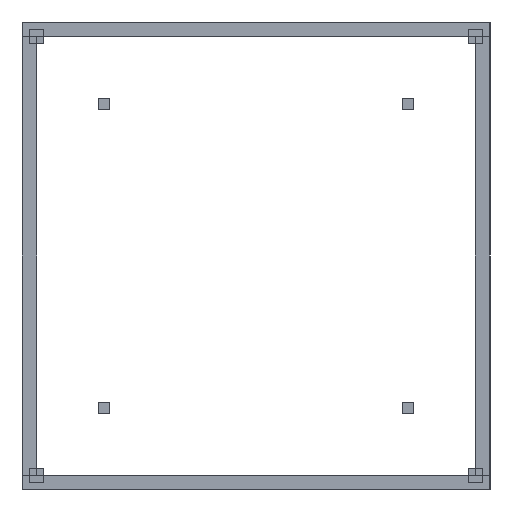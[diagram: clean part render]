
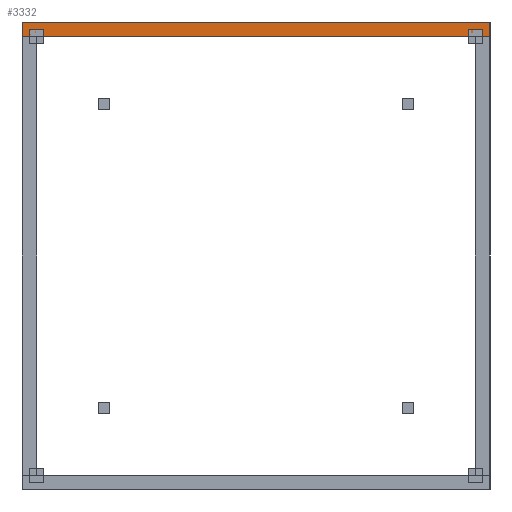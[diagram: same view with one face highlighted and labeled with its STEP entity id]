
A CAD part, left-side view. The second image highlights one B-rep face of the part: STEP entity #3332.
In plain terms, the highlighted planar face has unit normal (-1, 0, 0).
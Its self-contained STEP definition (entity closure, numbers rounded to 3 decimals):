
#3332 = ADVANCED_FACE('',(#3333),#3347,.F.);
#3333 = FACE_BOUND('',#3334,.F.);
#3334 = EDGE_LOOP('',(#3335,#3370,#3398,#3426));
#3335 = ORIENTED_EDGE('',*,*,#3336,.F.);
#3336 = EDGE_CURVE('',#3337,#3339,#3341,.T.);
#3337 = VERTEX_POINT('',#3338);
#3338 = CARTESIAN_POINT('',(-50.,-80.,75.));
#3339 = VERTEX_POINT('',#3340);
#3340 = CARTESIAN_POINT('',(-50.,-80.,80.));
#3341 = SURFACE_CURVE('',#3342,(#3346,#3358),.PCURVE_S1.);
#3342 = LINE('',#3343,#3344);
#3343 = CARTESIAN_POINT('',(-50.,-80.,75.));
#3344 = VECTOR('',#3345,1.);
#3345 = DIRECTION('',(0.,0.,1.));
#3346 = PCURVE('',#3347,#3352);
#3347 = PLANE('',#3348);
#3348 = AXIS2_PLACEMENT_3D('',#3349,#3350,#3351);
#3349 = CARTESIAN_POINT('',(-50.,-80.,75.));
#3350 = DIRECTION('',(1.,0.,0.));
#3351 = DIRECTION('',(0.,0.,1.));
#3352 = DEFINITIONAL_REPRESENTATION('',(#3353),#3357);
#3353 = LINE('',#3354,#3355);
#3354 = CARTESIAN_POINT('',(0.,0.));
#3355 = VECTOR('',#3356,1.);
#3356 = DIRECTION('',(1.,0.));
#3357 = ( GEOMETRIC_REPRESENTATION_CONTEXT(2) 
PARAMETRIC_REPRESENTATION_CONTEXT() REPRESENTATION_CONTEXT('2D SPACE',''
  ) );
#3358 = PCURVE('',#3359,#3364);
#3359 = PLANE('',#3360);
#3360 = AXIS2_PLACEMENT_3D('',#3361,#3362,#3363);
#3361 = CARTESIAN_POINT('',(-50.,-80.,75.));
#3362 = DIRECTION('',(0.,1.,0.));
#3363 = DIRECTION('',(0.,0.,1.));
#3364 = DEFINITIONAL_REPRESENTATION('',(#3365),#3369);
#3365 = LINE('',#3366,#3367);
#3366 = CARTESIAN_POINT('',(0.,0.));
#3367 = VECTOR('',#3368,1.);
#3368 = DIRECTION('',(1.,0.));
#3369 = ( GEOMETRIC_REPRESENTATION_CONTEXT(2) 
PARAMETRIC_REPRESENTATION_CONTEXT() REPRESENTATION_CONTEXT('2D SPACE',''
  ) );
#3370 = ORIENTED_EDGE('',*,*,#3371,.T.);
#3371 = EDGE_CURVE('',#3337,#3372,#3374,.T.);
#3372 = VERTEX_POINT('',#3373);
#3373 = CARTESIAN_POINT('',(-50.,80.,75.));
#3374 = SURFACE_CURVE('',#3375,(#3379,#3386),.PCURVE_S1.);
#3375 = LINE('',#3376,#3377);
#3376 = CARTESIAN_POINT('',(-50.,-80.,75.));
#3377 = VECTOR('',#3378,1.);
#3378 = DIRECTION('',(0.,1.,0.));
#3379 = PCURVE('',#3347,#3380);
#3380 = DEFINITIONAL_REPRESENTATION('',(#3381),#3385);
#3381 = LINE('',#3382,#3383);
#3382 = CARTESIAN_POINT('',(0.,0.));
#3383 = VECTOR('',#3384,1.);
#3384 = DIRECTION('',(0.,-1.));
#3385 = ( GEOMETRIC_REPRESENTATION_CONTEXT(2) 
PARAMETRIC_REPRESENTATION_CONTEXT() REPRESENTATION_CONTEXT('2D SPACE',''
  ) );
#3386 = PCURVE('',#3387,#3392);
#3387 = PLANE('',#3388);
#3388 = AXIS2_PLACEMENT_3D('',#3389,#3390,#3391);
#3389 = CARTESIAN_POINT('',(-50.,-80.,75.));
#3390 = DIRECTION('',(0.,0.,1.));
#3391 = DIRECTION('',(1.,0.,0.));
#3392 = DEFINITIONAL_REPRESENTATION('',(#3393),#3397);
#3393 = LINE('',#3394,#3395);
#3394 = CARTESIAN_POINT('',(0.,0.));
#3395 = VECTOR('',#3396,1.);
#3396 = DIRECTION('',(0.,1.));
#3397 = ( GEOMETRIC_REPRESENTATION_CONTEXT(2) 
PARAMETRIC_REPRESENTATION_CONTEXT() REPRESENTATION_CONTEXT('2D SPACE',''
  ) );
#3398 = ORIENTED_EDGE('',*,*,#3399,.T.);
#3399 = EDGE_CURVE('',#3372,#3400,#3402,.T.);
#3400 = VERTEX_POINT('',#3401);
#3401 = CARTESIAN_POINT('',(-50.,80.,80.));
#3402 = SURFACE_CURVE('',#3403,(#3407,#3414),.PCURVE_S1.);
#3403 = LINE('',#3404,#3405);
#3404 = CARTESIAN_POINT('',(-50.,80.,75.));
#3405 = VECTOR('',#3406,1.);
#3406 = DIRECTION('',(0.,0.,1.));
#3407 = PCURVE('',#3347,#3408);
#3408 = DEFINITIONAL_REPRESENTATION('',(#3409),#3413);
#3409 = LINE('',#3410,#3411);
#3410 = CARTESIAN_POINT('',(0.,-160.));
#3411 = VECTOR('',#3412,1.);
#3412 = DIRECTION('',(1.,0.));
#3413 = ( GEOMETRIC_REPRESENTATION_CONTEXT(2) 
PARAMETRIC_REPRESENTATION_CONTEXT() REPRESENTATION_CONTEXT('2D SPACE',''
  ) );
#3414 = PCURVE('',#3415,#3420);
#3415 = PLANE('',#3416);
#3416 = AXIS2_PLACEMENT_3D('',#3417,#3418,#3419);
#3417 = CARTESIAN_POINT('',(-50.,80.,75.));
#3418 = DIRECTION('',(0.,1.,0.));
#3419 = DIRECTION('',(0.,0.,1.));
#3420 = DEFINITIONAL_REPRESENTATION('',(#3421),#3425);
#3421 = LINE('',#3422,#3423);
#3422 = CARTESIAN_POINT('',(0.,0.));
#3423 = VECTOR('',#3424,1.);
#3424 = DIRECTION('',(1.,0.));
#3425 = ( GEOMETRIC_REPRESENTATION_CONTEXT(2) 
PARAMETRIC_REPRESENTATION_CONTEXT() REPRESENTATION_CONTEXT('2D SPACE',''
  ) );
#3426 = ORIENTED_EDGE('',*,*,#3427,.F.);
#3427 = EDGE_CURVE('',#3339,#3400,#3428,.T.);
#3428 = SURFACE_CURVE('',#3429,(#3433,#3440),.PCURVE_S1.);
#3429 = LINE('',#3430,#3431);
#3430 = CARTESIAN_POINT('',(-50.,-80.,80.));
#3431 = VECTOR('',#3432,1.);
#3432 = DIRECTION('',(0.,1.,0.));
#3433 = PCURVE('',#3347,#3434);
#3434 = DEFINITIONAL_REPRESENTATION('',(#3435),#3439);
#3435 = LINE('',#3436,#3437);
#3436 = CARTESIAN_POINT('',(5.,0.));
#3437 = VECTOR('',#3438,1.);
#3438 = DIRECTION('',(0.,-1.));
#3439 = ( GEOMETRIC_REPRESENTATION_CONTEXT(2) 
PARAMETRIC_REPRESENTATION_CONTEXT() REPRESENTATION_CONTEXT('2D SPACE',''
  ) );
#3440 = PCURVE('',#3441,#3446);
#3441 = PLANE('',#3442);
#3442 = AXIS2_PLACEMENT_3D('',#3443,#3444,#3445);
#3443 = CARTESIAN_POINT('',(-50.,-80.,80.));
#3444 = DIRECTION('',(0.,0.,1.));
#3445 = DIRECTION('',(1.,0.,0.));
#3446 = DEFINITIONAL_REPRESENTATION('',(#3447),#3451);
#3447 = LINE('',#3448,#3449);
#3448 = CARTESIAN_POINT('',(0.,0.));
#3449 = VECTOR('',#3450,1.);
#3450 = DIRECTION('',(0.,1.));
#3451 = ( GEOMETRIC_REPRESENTATION_CONTEXT(2) 
PARAMETRIC_REPRESENTATION_CONTEXT() REPRESENTATION_CONTEXT('2D SPACE',''
  ) );
